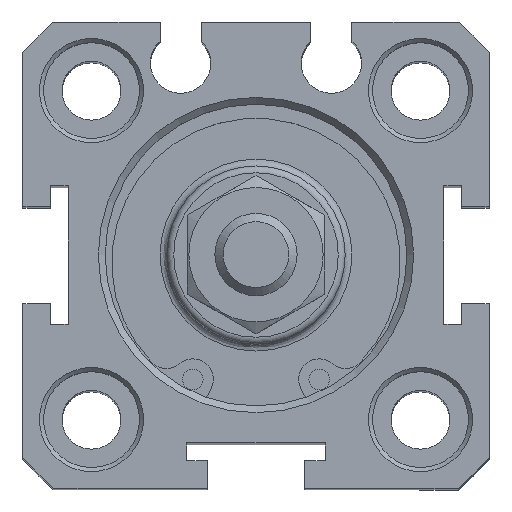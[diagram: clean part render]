
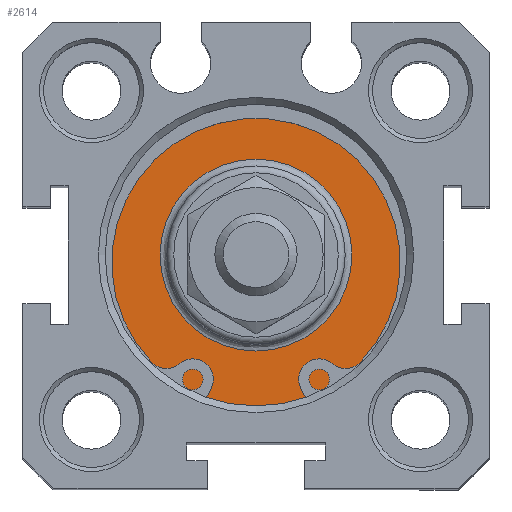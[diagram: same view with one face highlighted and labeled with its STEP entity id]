
A CAD part, top view. The second image highlights one B-rep face of the part: STEP entity #2614.
In plain terms, the highlighted planar face has unit normal (0, 0, 1).
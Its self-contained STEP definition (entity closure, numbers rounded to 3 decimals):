
#2552=CARTESIAN_POINT('',(0.957,6.522,76.8));
#2553=VERTEX_POINT('',#2552);
#2554=CARTESIAN_POINT('',(0.957,-0.478,76.8));
#2555=DIRECTION('',(0.0,0.0,1.0));
#2556=DIRECTION('',(0.0,-1.0,0.0));
#2557=AXIS2_PLACEMENT_3D('',#2554,#2555,#2556);
#2558=CIRCLE('',#2557,7.);
#2559=EDGE_CURVE('',#2553,#2553,#2558,.T.);
#2595=CARTESIAN_POINT('',(0.957,8.272,76.8));
#2596=DIRECTION('',(0.0,0.0,1.0));
#2597=DIRECTION('',(1.0,0.0,0.0));
#2598=AXIS2_PLACEMENT_3D('',#2595,#2596,#2597);
#2599=PLANE('',#2598);
#2600=CARTESIAN_POINT('',(0.957,10.522,76.8));
#2601=VERTEX_POINT('',#2600);
#2602=CARTESIAN_POINT('',(0.957,-0.478,76.8));
#2603=DIRECTION('',(0.0,0.0,1.0));
#2604=DIRECTION('',(0.0,1.0,0.0));
#2605=AXIS2_PLACEMENT_3D('',#2602,#2603,#2604);
#2606=CIRCLE('',#2605,11.);
#2607=EDGE_CURVE('',#2601,#2601,#2606,.T.);
#2608=ORIENTED_EDGE('',*,*,#2607,.T.);
#2609=EDGE_LOOP('',(#2608));
#2610=FACE_OUTER_BOUND('',#2609,.T.);
#2611=ORIENTED_EDGE('',*,*,#2559,.F.);
#2612=EDGE_LOOP('',(#2611));
#2613=FACE_BOUND('',#2612,.T.);
#2614=ADVANCED_FACE('',(#2610,#2613),#2599,.T.);
